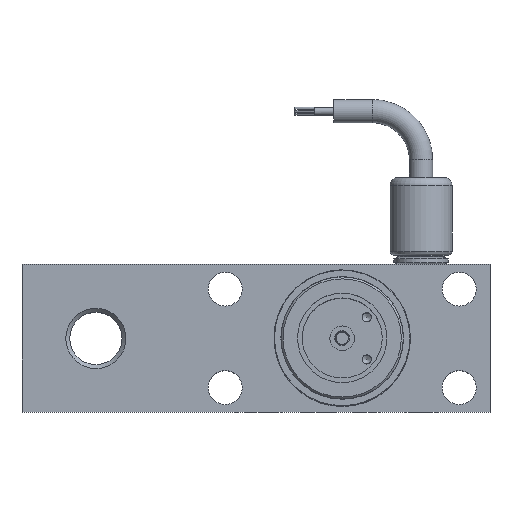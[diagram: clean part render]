
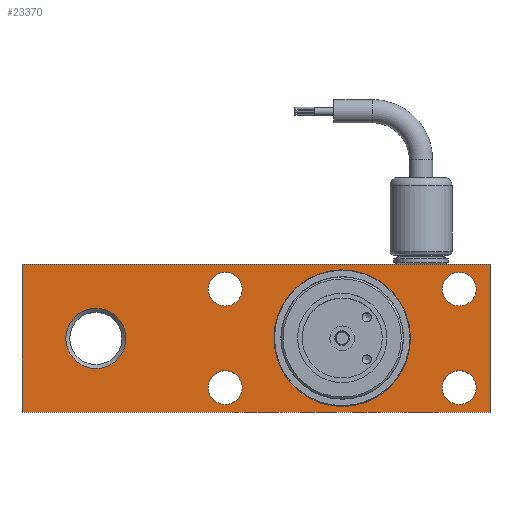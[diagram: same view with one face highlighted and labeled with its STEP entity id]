
A CAD part, top view. The second image highlights one B-rep face of the part: STEP entity #23370.
In plain terms, the highlighted planar face has unit normal (0, 0, 1).
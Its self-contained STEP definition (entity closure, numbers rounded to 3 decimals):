
#2032=LINE('',#88659,#3878);
#2058=LINE('',#88957,#3904);
#2565=LINE('',#91534,#4411);
#3085=LINE('',#93940,#4931);
#3878=VECTOR('',#27063,10.);
#3904=VECTOR('',#27215,10.);
#4411=VECTOR('',#28124,10.);
#4931=VECTOR('',#29056,10.);
#5285=FACE_BOUND('',#8190,.T.);
#5286=FACE_BOUND('',#8191,.T.);
#5287=FACE_BOUND('',#8192,.T.);
#5288=FACE_BOUND('',#8193,.T.);
#5289=FACE_BOUND('',#8194,.T.);
#5290=FACE_BOUND('',#8195,.T.);
#6669=FACE_OUTER_BOUND('',#8189,.T.);
#8189=EDGE_LOOP('',(#20070,#20071,#20072,#20073));
#8190=EDGE_LOOP('',(#20074));
#8191=EDGE_LOOP('',(#20075));
#8192=EDGE_LOOP('',(#20076));
#8193=EDGE_LOOP('',(#20077));
#8194=EDGE_LOOP('',(#20078));
#8195=EDGE_LOOP('',(#20079));
#8653=CIRCLE('',#24238,4.369);
#8654=CIRCLE('',#24240,4.369);
#8655=CIRCLE('',#24242,4.369);
#8656=CIRCLE('',#24244,4.369);
#8667=CIRCLE('',#24264,7.76);
#8705=CIRCLE('',#24692,17.463);
#9858=VERTEX_POINT('',#88657);
#9859=VERTEX_POINT('',#88658);
#9905=VERTEX_POINT('',#88783);
#9906=VERTEX_POINT('',#88786);
#9907=VERTEX_POINT('',#88789);
#9908=VERTEX_POINT('',#88792);
#9919=VERTEX_POINT('',#88927);
#9926=VERTEX_POINT('',#88955);
#9927=VERTEX_POINT('',#88956);
#10805=VERTEX_POINT('',#93953);
#12501=EDGE_CURVE('',#9858,#9859,#2032,.T.);
#12549=EDGE_CURVE('',#9905,#9905,#8653,.T.);
#12550=EDGE_CURVE('',#9906,#9906,#8654,.T.);
#12551=EDGE_CURVE('',#9907,#9907,#8655,.T.);
#12552=EDGE_CURVE('',#9908,#9908,#8656,.T.);
#12569=EDGE_CURVE('',#9919,#9919,#8667,.T.);
#12576=EDGE_CURVE('',#9926,#9927,#2058,.T.);
#13252=EDGE_CURVE('',#9859,#9926,#2565,.T.);
#13914=EDGE_CURVE('',#9927,#9858,#3085,.T.);
#13917=EDGE_CURVE('',#10805,#10805,#8705,.T.);
#20070=ORIENTED_EDGE('',*,*,#12501,.F.);
#20071=ORIENTED_EDGE('',*,*,#13914,.F.);
#20072=ORIENTED_EDGE('',*,*,#12576,.F.);
#20073=ORIENTED_EDGE('',*,*,#13252,.F.);
#20074=ORIENTED_EDGE('',*,*,#12569,.F.);
#20075=ORIENTED_EDGE('',*,*,#12552,.T.);
#20076=ORIENTED_EDGE('',*,*,#12551,.T.);
#20077=ORIENTED_EDGE('',*,*,#12550,.T.);
#20078=ORIENTED_EDGE('',*,*,#12549,.T.);
#20079=ORIENTED_EDGE('',*,*,#13917,.T.);
#20897=PLANE('',#24691);
#23370=ADVANCED_FACE('',(#6669,#5285,#5286,#5287,#5288,#5289,#5290),#20897,
 .F.);
#24238=AXIS2_PLACEMENT_3D('',#88784,#27139,#27140);
#24240=AXIS2_PLACEMENT_3D('',#88787,#27143,#27144);
#24242=AXIS2_PLACEMENT_3D('',#88790,#27147,#27148);
#24244=AXIS2_PLACEMENT_3D('',#88793,#27151,#27152);
#24264=AXIS2_PLACEMENT_3D('',#88928,#27193,#27194);
#24691=AXIS2_PLACEMENT_3D('',#93952,#29075,#29076);
#24692=AXIS2_PLACEMENT_3D('',#93954,#29077,#29078);
#27063=DIRECTION('',(0.,-1.,0.));
#27139=DIRECTION('center_axis',(0.,0.,-1.));
#27140=DIRECTION('ref_axis',(-1.,0.,0.));
#27143=DIRECTION('center_axis',(0.,0.,-1.));
#27144=DIRECTION('ref_axis',(-1.,0.,0.));
#27147=DIRECTION('center_axis',(0.,0.,-1.));
#27148=DIRECTION('ref_axis',(-1.,0.,0.));
#27151=DIRECTION('center_axis',(0.,0.,-1.));
#27152=DIRECTION('ref_axis',(-1.,0.,0.));
#27193=DIRECTION('center_axis',(0.,0.,1.));
#27194=DIRECTION('ref_axis',(-1.,0.,0.));
#27215=DIRECTION('',(0.,1.,0.));
#28124=DIRECTION('',(-1.,0.,0.));
#29056=DIRECTION('',(1.,0.,0.));
#29075=DIRECTION('center_axis',(0.,0.,-1.));
#29076=DIRECTION('ref_axis',(-1.,0.,0.));
#29077=DIRECTION('center_axis',(0.,0.,-1.));
#29078=DIRECTION('ref_axis',(-1.,0.,0.));
#88657=CARTESIAN_POINT('',(38.1,19.05,19.05));
#88658=CARTESIAN_POINT('',(38.1,-19.05,19.05));
#88659=CARTESIAN_POINT('',(38.1,9.525,19.05));
#88783=CARTESIAN_POINT('',(34.531,12.7,19.05));
#88784=CARTESIAN_POINT('Origin',(30.163,12.7,19.05));
#88786=CARTESIAN_POINT('',(34.531,-12.7,19.05));
#88787=CARTESIAN_POINT('Origin',(30.163,-12.7,19.05));
#88789=CARTESIAN_POINT('',(-25.794,-12.7,19.05));
#88790=CARTESIAN_POINT('Origin',(-30.163,-12.7,19.05));
#88792=CARTESIAN_POINT('',(-25.794,12.7,19.05));
#88793=CARTESIAN_POINT('Origin',(-30.163,12.7,19.05));
#88927=CARTESIAN_POINT('',(-55.74,0.,19.05));
#88928=CARTESIAN_POINT('Origin',(-63.5,0.,19.05));
#88955=CARTESIAN_POINT('',(-82.55,-19.05,19.05));
#88956=CARTESIAN_POINT('',(-82.55,19.05,19.05));
#88957=CARTESIAN_POINT('',(-82.55,-19.05,19.05));
#91534=CARTESIAN_POINT('',(4.,-19.05,19.05));
#93940=CARTESIAN_POINT('',(-34.1,19.05,19.05));
#93952=CARTESIAN_POINT('Origin',(-30.099,0.,19.05));
#93953=CARTESIAN_POINT('',(17.463,0.,19.05));
#93954=CARTESIAN_POINT('Origin',(0.,0.,19.05));
